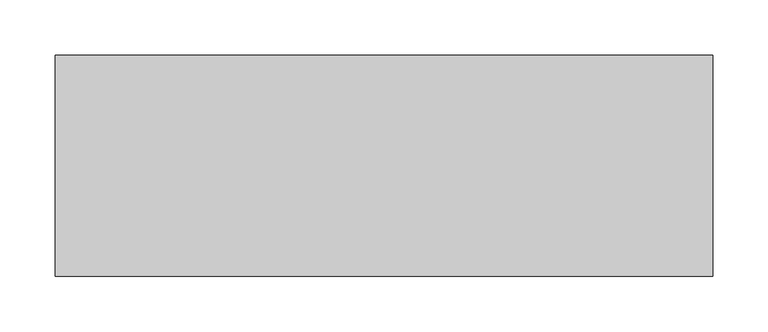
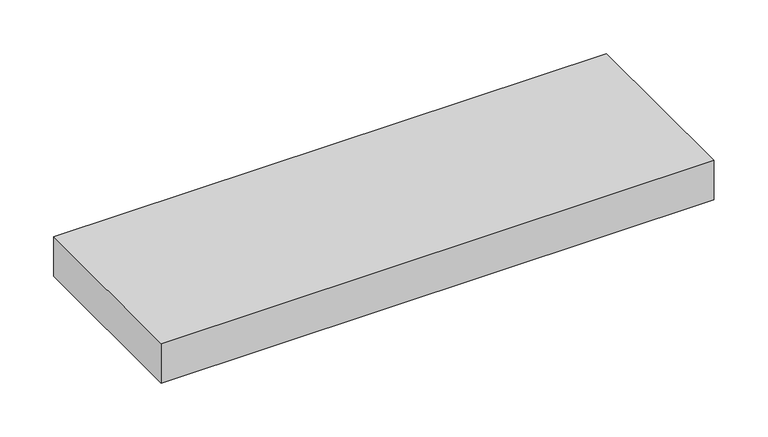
"""IFC4 building model written with IfcOpenShell, lengths in millimetres: light fixture geometry, GENILED_Светильник светодиодный_Офис Advanced : Офис Advanced 595x200x45 20Вт IP54 Опал."""

from ifc_helpers import new_model, si_unit, origin, place, context, project, spatial, faceted_brep, source, transform, mapped, element, save


def light_fixture_1a73ff57(model_context):
    return source(origin(), model_context, "Body", "Brep", [
        faceted_brep([(297.5, 100.0, 45.0), (-297.5, 100.0, 45.0), (-297.5, -100.0, 45.0), (297.5, -100.0, 45.0), (297.5, 100.0, 0.0), (297.5, -100.0, 0.0), (-297.5, -100.0, 0.0), (-297.5, 100.0, 0.0), (287.5, 90.0, 0.0), (-287.5, 90.0, 0.0), (-287.5, -90.0, 0.0), (287.5, -90.0, 0.0), (287.5, -90.0, 5.0), (287.5, 90.0, 5.0), (-287.5, -90.0, 5.0), (-287.5, 90.0, 5.0)], [[[0, 1, 2, 3]], [[4, 5, 6, 7], [8, 9, 10, 11]], [[1, 0, 4, 7]], [[2, 1, 7, 6]], [[3, 2, 6, 5]], [[0, 3, 5, 4]], [[8, 11, 12, 13]], [[11, 10, 14, 12]], [[10, 9, 15, 14]], [[9, 8, 13, 15]], [[13, 12, 14, 15]]]),
    ])


if __name__ == "__main__":
    model = new_model("IFC4")
    model_context = context("Model", 3, world=origin())
    ifc_project = project(units=[si_unit("LENGTHUNIT", "METRE", prefix="MILLI")], contexts=[model_context])
    site = spatial("IfcSite", under=ifc_project)
    building = spatial("IfcBuilding", under=site)
    placement = place(None, origin())
    light_fixture_shape = light_fixture_1a73ff57(model_context)
    element("IfcLightFixture", 1, ObjectType="GENILED_Светильник светодиодный_Офис Advanced : Офис Advanced 595x200x45 20Вт IP54 Опал", at=placement, inside=building, context=model_context, shape_type="MappedRepresentation", body=[
        mapped(light_fixture_shape, transform((0.0, 0.0, 0.0), x_axis=(1.0, 0.0, 0.0), y_axis=(0.0, 1.0, 0.0), z_axis=(0.0, 0.0, 1.0))),
    ])
    save(model, "model.ifc")
